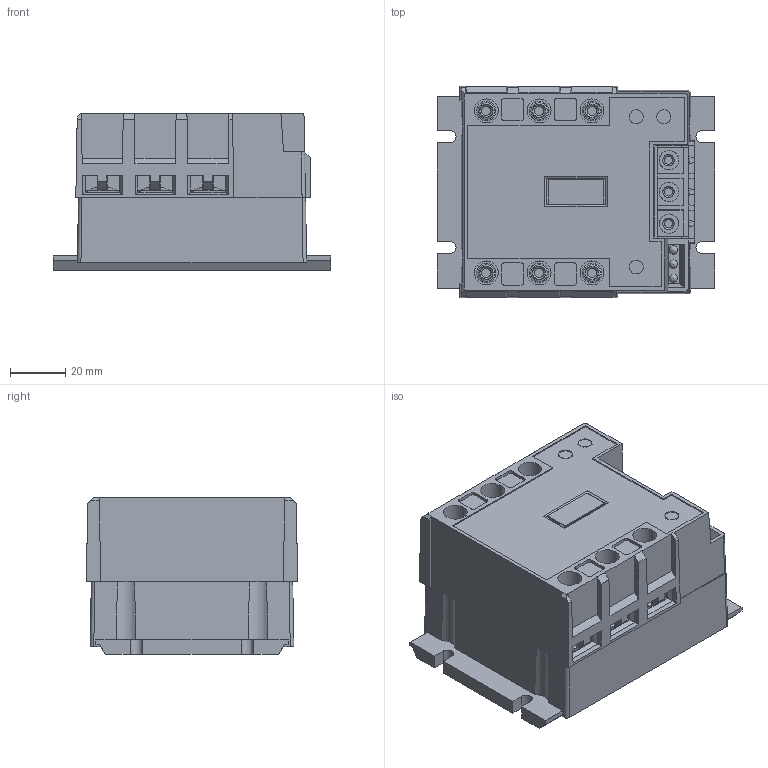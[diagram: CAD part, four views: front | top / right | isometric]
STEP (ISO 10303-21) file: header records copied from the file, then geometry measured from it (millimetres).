
FILE_DESCRIPTION((''),'2;1');
FILE_NAME('C:\Vault_local\Designs\Stock\3D pour clients\préparations\2D3D 547 A.stp','2009-08-14T10:22:09',('Georges THOLLOT ','Responsible for','Methods and Industrialization',' Tl : +33 (0)4 77 53 90 27','gthollot@celduc.com'),('Celduc r e l a i s','5, rue Ampre, BP 30004','42290 SORBIERS - France','Fax. : +33 (0)4 77 53 85 51','N siret 353 310 519 00015','ISO 9001 N QUAL/1993/1106b','www.celduc.com'),'Autodesk Inventor 2009','Autodesk Inventor 2009','');
FILE_SCHEMA(('AUTOMOTIVE_DESIGN { 1 0 10303 214 1 1 1 1 }'));
Length unit declared in the file: millimetre
Products named in the file (1): SV9 fixture Ø4_40 x 91
Bounding box: 100 x 76.2 x 56.5 mm (x, y, z)
Volume: 312251.3 mm3; surface area: 43047.6 mm2
Topology: 1 solids, 1 shells, 685 faces, 1845 edges, 1188 vertices
Faces by surface type: plane 449, bspline 133, cone 51, cylinder 49, sphere 3
Full cylindrical faces by diameter (mm): 2.9 x3, 3.3 x6, 7 x6, 8.6 x3
Entity records: 21630 total; most frequent: CARTESIAN_POINT 4987, ORIENTED_EDGE 3550, DIRECTION 3040, EDGE_CURVE 1775, VECTOR 1436, LINE 1436, VERTEX_POINT 1169, AXIS2_PLACEMENT_3D 802
